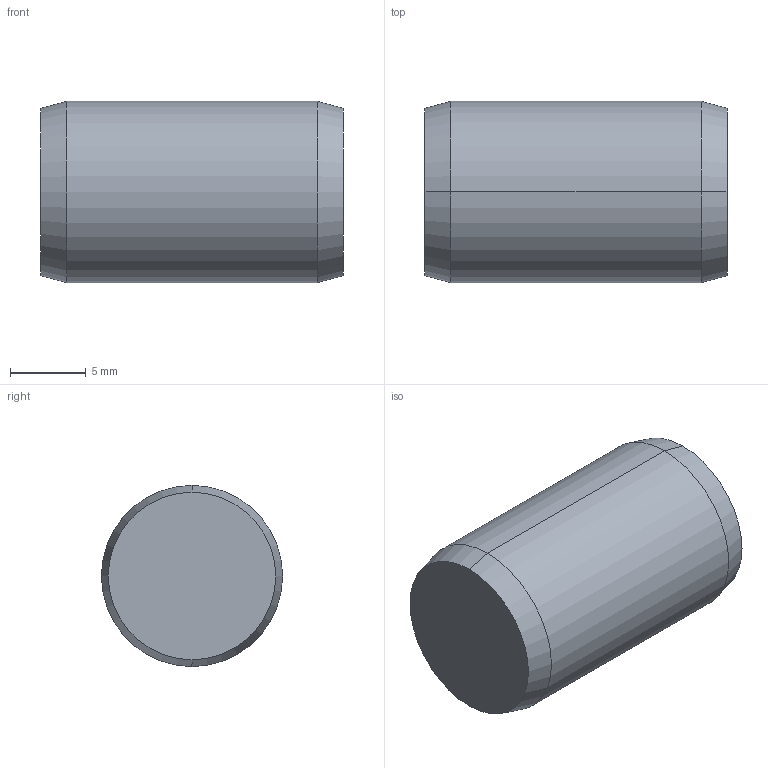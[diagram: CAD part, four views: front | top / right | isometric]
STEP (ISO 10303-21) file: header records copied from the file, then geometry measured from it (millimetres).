
FILE_DESCRIPTION (( 'STEP AP203' ), '1' );
FILE_NAME ('P1206.120-020.step', '2017-06-14T08:36:46', ( 'User' ), ( '' ), 'SwSTEP 2.0', 'SolidWorks 2009', '' );
FILE_SCHEMA (( 'CONFIG_CONTROL_DESIGN' ));
Length unit declared in the file: millimetre
Products named in the file (1): P1206.120-020
Bounding box: 20 x 12 x 12 mm (x, y, z)
Volume: 2233.5 mm3; surface area: 946.6 mm2
Topology: 1 solids, 1 shells, 8 faces, 14 edges, 8 vertices
Faces by surface type: cone 4, cylinder 2, plane 2
Entity records: 271 total; most frequent: DIRECTION 40, CARTESIAN_POINT 31, ORIENTED_EDGE 28, AXIS2_PLACEMENT_3D 17, EDGE_CURVE 14, ADVANCED_FACE 8, EDGE_LOOP 8, VERTEX_POINT 8
